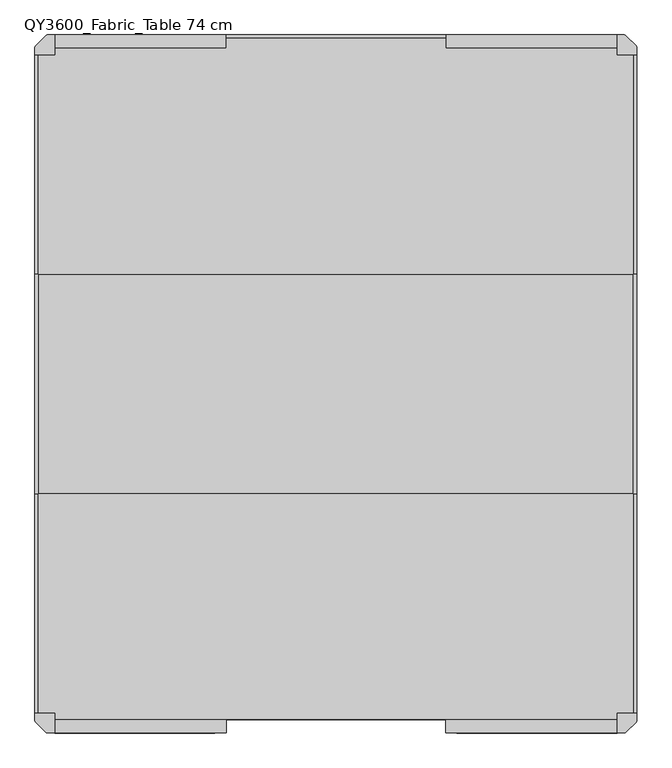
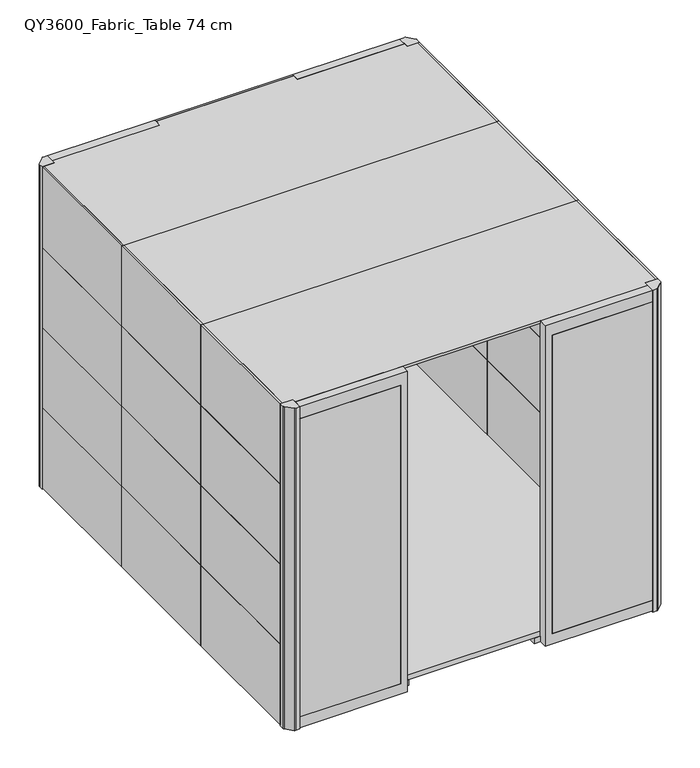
"""IFC4 building model written with IfcOpenShell, lengths in millimetres: furniture geometry, Qyos_600 : QY3600_Fabric_Table 74 cm."""

from ifc_helpers import new_model, si_unit, point, frame, frame_2d, origin, origin_with_axes, place, context, project, spatial, polyline, circle_curve, trimmed, segment, composite_curve, outline, extrude, source, transform, mapped, element, save
from ifc_brep_helpers import plane_surface, cylinder_surface, advanced_brep


def qy3600_fabric_table_74_cm_c5741240(model_context):
    return source(origin(), model_context, "Body", "SolidModel", [
        advanced_brep(
        [(1048.8585356, 1272.0, 0.0), (1095.1414644, 1272.0, 0.0), (1072.0, 1272.0, 0.0), (1048.8585356, 1272.0, 7.0), (1095.1414644, 1272.0, 7.0), (1062.3615446, 1272.0, 7.0), (1081.6384554, 1272.0, 7.0), (1062.3615446, 1272.0, 17.0), (1081.6384554, 1272.0, 17.0), (1072.0, 1272.0, 17.0)],
        [
            (0, 1, circle_curve(frame((1072.0, 1272.0, 0.0), z_axis=(0.0, 0.0, -1.0), x_axis=(1.0, 0.0, 0.0)), 23.1414644)),
            (1, 2),
            (2, 0),
            (1, 0, circle_curve(frame((1072.0, 1272.0, 0.0), z_axis=(0.0, 0.0, -1.0), x_axis=(1.0, 0.0, 0.0)), 23.1414644)),
            (3, 4, circle_curve(frame((1072.0, 1272.0, 7.0), z_axis=(0.0, 0.0, -1.0), x_axis=(1.0, 0.0, 0.0)), 23.1414644)),
            (4, 1),
            (0, 3),
            (4, 3, circle_curve(frame((1072.0, 1272.0, 7.0), z_axis=(0.0, 0.0, -1.0), x_axis=(1.0, 0.0, 0.0)), 23.1414644)),
            (5, 6, circle_curve(frame((1072.0, 1272.0, 7.0), z_axis=(0.0, 0.0, -1.0), x_axis=(1.0, 0.0, 0.0)), 9.6384554)),
            (6, 4),
            (3, 5),
            (6, 5, circle_curve(frame((1072.0, 1272.0, 7.0), z_axis=(0.0, 0.0, -1.0), x_axis=(1.0, 0.0, 0.0)), 9.6384554)),
            (7, 8, circle_curve(frame((1072.0, 1272.0, 17.0), z_axis=(0.0, 0.0, -1.0), x_axis=(1.0, 0.0, 0.0)), 9.6384554)),
            (8, 6),
            (5, 7),
            (8, 7, circle_curve(frame((1072.0, 1272.0, 17.0), z_axis=(0.0, 0.0, -1.0), x_axis=(1.0, 0.0, 0.0)), 9.6384554)),
            (9, 8),
            (7, 9),
        ],
        [
            plane_surface(frame((1072.0, 1272.0, 0.0), z_axis=(0.0, 0.0, -1.0), x_axis=(1.0, 0.0, 0.0))),
            cylinder_surface(frame((1072.0, 1272.0, 1997.4144888), z_axis=(0.0, 0.0, 1.0), x_axis=(1.0, 0.0, 0.0)), 23.1414644),
            plane_surface(frame((1072.0, 1272.0, 7.0), z_axis=(0.0, 0.0, 1.0), x_axis=(1.0, 0.0, 0.0))),
            cylinder_surface(frame((1072.0, 1272.0, 1997.4144888), z_axis=(0.0, 0.0, 1.0), x_axis=(1.0, 0.0, 0.0)), 9.6384554),
            plane_surface(frame((1072.0, 1272.0, 17.0), z_axis=(0.0, 0.0, 1.0), x_axis=(1.0, 0.0, 0.0))),
        ],
        [
            (0, [[1, 2, 3]]),
            (0, [[4, -3, -2]]),
            (1, [[5, 6, -1, 7]]),
            (1, [[8, -7, -4, -6]]),
            (2, [[9, 10, -5, 11]]),
            (2, [[12, -11, -8, -10]]),
            (3, [[13, 14, -9, 15]]),
            (3, [[16, -15, -12, -14]]),
            (4, [[17, -13, 18]]),
            (4, [[-18, -16, -17]]),
        ],
    ),
        extrude(outline(composite_curve([segment(trimmed(circle_curve(frame_2d((1072.0, 1272.0)), 23.1414644), [point((1048.8585356, 1272.0))], [point((1095.1414644, 1272.0))], False, "CARTESIAN"), True, "CONTINUOUS"), segment(trimmed(circle_curve(frame_2d((1072.0, 1272.0)), 23.1414644), [point((1095.1414644, 1272.0))], [point((1048.8585356, 1272.0))], False, "CARTESIAN"), True, "CONTINUOUS")], self_intersect=False)), origin_with_axes(), (0.0, 0.0, 1.0), 7.0),
        extrude(outline(composite_curve([segment(polyline([(-1140.0, 1335.0), (-1220.0, 1335.0), (-1220.0, 1362.5536246)]), True, "CONTINUOUS"), segment(trimmed(circle_curve(frame_2d((-1208.0024364, 1362.3118252)), 12.0), [point((-1220.0, 1362.5536246))], [point((-1216.7960176, 1370.4771745))], False, "CARTESIAN"), True, "CONTINUOUS"), segment(trimmed(circle_curve(frame_2d((-638.4303831, 833.431197)), 789.2560985), [point((-1216.7960176, 1370.4771745))], [point((-1175.4763607, 1411.7968315))], False, "CARTESIAN"), True, "CONTINUOUS"), segment(trimmed(circle_curve(frame_2d((-1167.3110114, 1403.0032502)), 12.0), [point((-1175.4763607, 1411.7968315))], [point((-1167.5902872, 1415.0))], False, "CARTESIAN"), True, "CONTINUOUS"), segment(polyline([(-1167.5902872, 1415.0), (-1140.0, 1415.0), (-1140.0, 1335.0)]), True, "CONTINUOUS")], self_intersect=False)), origin_with_axes(), (0.0, 0.0, 1.0), 2202.1),
        extrude(outline(composite_curve([segment(polyline([(1140.0, 1335.0), (1140.0, 1415.0), (1167.5536246, 1415.0)]), True, "CONTINUOUS"), segment(trimmed(circle_curve(frame_2d((1167.3118252, 1403.0024364)), 12.0), [point((1167.5536246, 1415.0))], [point((1175.4771745, 1411.7960176))], False, "CARTESIAN"), True, "CONTINUOUS"), segment(trimmed(circle_curve(frame_2d((638.431197, 833.4303831)), 789.2560985), [point((1175.4771745, 1411.7960176))], [point((1216.7968315, 1370.4763607))], False, "CARTESIAN"), True, "CONTINUOUS"), segment(trimmed(circle_curve(frame_2d((1208.0032502, 1362.3110114)), 12.0), [point((1216.7968315, 1370.4763607))], [point((1220.0, 1362.5902872))], False, "CARTESIAN"), True, "CONTINUOUS"), segment(polyline([(1220.0, 1362.5902872), (1220.0, 1335.0), (1140.0, 1335.0)]), True, "CONTINUOUS")], self_intersect=False)), origin_with_axes(), (0.0, 0.0, 1.0), 2202.1),
        extrude(outline(composite_curve([segment(polyline([(1140.0, -1335.0), (1220.0, -1335.0), (1220.0, -1362.5536246)]), True, "CONTINUOUS"), segment(trimmed(circle_curve(frame_2d((1208.0024364, -1362.3118252)), 12.0), [point((1220.0, -1362.5536246))], [point((1216.7960176, -1370.4771745))], False, "CARTESIAN"), True, "CONTINUOUS"), segment(trimmed(circle_curve(frame_2d((638.4303831, -833.431197)), 789.2560985), [point((1216.7960176, -1370.4771745))], [point((1175.4763607, -1411.7968315))], False, "CARTESIAN"), True, "CONTINUOUS"), segment(trimmed(circle_curve(frame_2d((1167.3110114, -1403.0032502)), 12.0), [point((1175.4763607, -1411.7968315))], [point((1167.5902872, -1415.0))], False, "CARTESIAN"), True, "CONTINUOUS"), segment(polyline([(1167.5902872, -1415.0), (1140.0, -1415.0), (1140.0, -1335.0)]), True, "CONTINUOUS")], self_intersect=False)), origin_with_axes(), (0.0, 0.0, 1.0), 2202.1),
        extrude(outline(composite_curve([segment(polyline([(-1140.0, -1335.0), (-1140.0, -1415.0), (-1167.5536246, -1415.0)]), True, "CONTINUOUS"), segment(trimmed(circle_curve(frame_2d((-1167.3118252, -1403.0024364)), 12.0), [point((-1167.5536246, -1415.0))], [point((-1175.4771745, -1411.7960176))], False, "CARTESIAN"), True, "CONTINUOUS"), segment(trimmed(circle_curve(frame_2d((-638.431197, -833.4303831)), 789.2560985), [point((-1175.4771745, -1411.7960176))], [point((-1216.7968315, -1370.4763607))], False, "CARTESIAN"), True, "CONTINUOUS"), segment(trimmed(circle_curve(frame_2d((-1208.0032502, -1362.3110114)), 12.0), [point((-1216.7968315, -1370.4763607))], [point((-1220.0, -1362.5902872))], False, "CARTESIAN"), True, "CONTINUOUS"), segment(polyline([(-1220.0, -1362.5902872), (-1220.0, -1335.0), (-1140.0, -1335.0)]), True, "CONTINUOUS")], self_intersect=False)), origin_with_axes(), (0.0, 0.0, 1.0), 2202.1),
        extrude(outline(polyline([(-445.0, 1360.0), (-445.0, 1401.0), (445.0, 1401.0), (445.0, 1360.0), (1140.0, 1360.0), (1140.0, 1335.0), (1206.0, 1335.0), (1206.0, 445.0), (-1206.0, 445.0), (-1206.0, 1335.0), (-1140.0, 1335.0), (-1140.0, 1360.0), (-445.0, 1360.0)])), frame((0.0, 0.0, 2186.1), z_axis=(0.0, 0.0, 1.0), x_axis=(1.0, 0.0, 0.0)), (0.0, 0.0, 1.0), 16.0),
        extrude(outline(polyline([(1206.0, -445.0), (1206.0, -1335.0), (1140.0, -1335.0), (1140.0, -1359.9956819), (-1140.0, -1359.9956819), (-1140.0, -1335.0), (-1206.0, -1335.0), (-1206.0, -445.0), (1206.0, -445.0)])), frame((0.0, 0.0, 2186.1), z_axis=(0.0, 0.0, 1.0), x_axis=(1.0, 0.0, 0.0)), (0.0, 0.0, 1.0), 16.0),
        extrude(outline(polyline([(1165.0, -1335.0), (1146.0, -1335.0), (1146.0, -445.0), (1165.0, -445.0), (1165.0, -1335.0)])), frame((0.0, 0.0, 77.0), z_axis=(0.0, 0.0, 1.0), x_axis=(1.0, 0.0, 0.0)), (0.0, 0.0, 1.0), 516.9823403),
        extrude(outline(polyline([(-1165.0, -1335.0), (-1165.0, -445.0), (-1146.0, -445.0), (-1146.0, -1335.0), (-1165.0, -1335.0)])), frame((0.0, 0.0, 77.0), z_axis=(0.0, 0.0, 1.0), x_axis=(1.0, 0.0, 0.0)), (0.0, 0.0, 1.0), 516.9823403),
        extrude(outline(polyline([(1165.0, -1335.0), (1146.0, -1335.0), (1146.0, -445.0), (1165.0, -445.0), (1165.0, -1335.0)])), frame((0.0, 0.0, 593.9823403), z_axis=(0.0, 0.0, 1.0), x_axis=(1.0, 0.0, 0.0)), (0.0, 0.0, 1.0), 512.0292884),
        extrude(outline(polyline([(-1165.0, -1335.0), (-1165.0, -445.0), (-1146.0, -445.0), (-1146.0, -1335.0), (-1165.0, -1335.0)])), frame((0.0, 0.0, 593.9823403), z_axis=(0.0, 0.0, 1.0), x_axis=(1.0, 0.0, 0.0)), (0.0, 0.0, 1.0), 512.0292884),
        extrude(outline(polyline([(1165.0, -1335.0), (1146.0, -1335.0), (1146.0, -445.0), (1165.0, -445.0), (1165.0, -1335.0)])), frame((0.0, 0.0, 1106.0116287), z_axis=(0.0, 0.0, 1.0), x_axis=(1.0, 0.0, 0.0)), (0.0, 0.0, 1.0), 511.9707116),
        extrude(outline(polyline([(-1165.0, -1335.0), (-1165.0, -445.0), (-1146.0, -445.0), (-1146.0, -1335.0), (-1165.0, -1335.0)])), frame((0.0, 0.0, 1106.0116287), z_axis=(0.0, 0.0, 1.0), x_axis=(1.0, 0.0, 0.0)), (0.0, 0.0, 1.0), 511.9707116),
        extrude(outline(polyline([(1165.0, -1335.0), (1146.0, -1335.0), (1146.0, -445.0), (1165.0, -445.0), (1165.0, -1335.0)])), frame((0.0, 0.0, 1617.9823403), z_axis=(0.0, 0.0, 1.0), x_axis=(1.0, 0.0, 0.0)), (0.0, 0.0, 1.0), 504.1176597),
        extrude(outline(polyline([(-1165.0, -1335.0), (-1165.0, -445.0), (-1146.0, -445.0), (-1146.0, -1335.0), (-1165.0, -1335.0)])), frame((0.0, 0.0, 1617.9823403), z_axis=(0.0, 0.0, 1.0), x_axis=(1.0, 0.0, 0.0)), (0.0, 0.0, 1.0), 504.1176597),
        extrude(outline(polyline([(1165.0, -445.0), (1146.0, -445.0), (1146.0, 445.0), (1165.0, 445.0), (1165.0, -445.0)])), frame((0.0, 0.0, 1617.9823403), z_axis=(0.0, 0.0, 1.0), x_axis=(1.0, 0.0, 0.0)), (0.0, 0.0, 1.0), 504.1176597),
        extrude(outline(polyline([(-1165.0, -445.0), (-1165.0, 445.0), (-1146.0, 445.0), (-1146.0, -445.0), (-1165.0, -445.0)])), frame((0.0, 0.0, 1617.9823403), z_axis=(0.0, 0.0, 1.0), x_axis=(1.0, 0.0, 0.0)), (0.0, 0.0, 1.0), 504.1176597),
        extrude(outline(polyline([(1165.0, -445.0), (1146.0, -445.0), (1146.0, 445.0), (1165.0, 445.0), (1165.0, -445.0)])), frame((0.0, 0.0, 1106.0116287), z_axis=(0.0, 0.0, 1.0), x_axis=(1.0, 0.0, 0.0)), (0.0, 0.0, 1.0), 511.9707116),
        extrude(outline(polyline([(-1165.0, -445.0), (-1165.0, 445.0), (-1146.0, 445.0), (-1146.0, -445.0), (-1165.0, -445.0)])), frame((0.0, 0.0, 1106.0116287), z_axis=(0.0, 0.0, 1.0), x_axis=(1.0, 0.0, 0.0)), (0.0, 0.0, 1.0), 511.9707116),
        extrude(outline(polyline([(1165.0, -445.0), (1146.0, -445.0), (1146.0, 445.0), (1165.0, 445.0), (1165.0, -445.0)])), frame((0.0, 0.0, 593.9823403), z_axis=(0.0, 0.0, 1.0), x_axis=(1.0, 0.0, 0.0)), (0.0, 0.0, 1.0), 512.0292884),
        extrude(outline(polyline([(-1165.0, -445.0), (-1165.0, 445.0), (-1146.0, 445.0), (-1146.0, -445.0), (-1165.0, -445.0)])), frame((0.0, 0.0, 593.9823403), z_axis=(0.0, 0.0, 1.0), x_axis=(1.0, 0.0, 0.0)), (0.0, 0.0, 1.0), 512.0292884),
        extrude(outline(polyline([(1165.0, 445.0), (1146.0, 445.0), (1146.0, 1335.0), (1165.0, 1335.0), (1165.0, 445.0)])), frame((0.0, 0.0, 77.0), z_axis=(0.0, 0.0, 1.0), x_axis=(1.0, 0.0, 0.0)), (0.0, 0.0, 1.0), 516.9823403),
        extrude(outline(polyline([(-1165.0, 445.0), (-1165.0, 1335.0), (-1146.0, 1335.0), (-1146.0, 445.0), (-1165.0, 445.0)])), frame((0.0, 0.0, 77.0), z_axis=(0.0, 0.0, 1.0), x_axis=(1.0, 0.0, 0.0)), (0.0, 0.0, 1.0), 516.9823403),
        extrude(outline(polyline([(-445.0, 1360.0), (-445.0, 1379.0), (445.0557256, 1379.0), (445.0557256, 1360.0), (-445.0, 1360.0)])), frame((0.0, 0.0, 77.0), z_axis=(0.0, 0.0, 1.0), x_axis=(1.0, 0.0, 0.0)), (0.0, 0.0, 1.0), 516.9823403),
        extrude(outline(polyline([(-1220.0, -445.0), (-1220.0, 445.0), (-1206.0, 445.0), (-1206.0, -445.0), (-1220.0, -445.0)])), frame((0.0, 0.0, 10.0), z_axis=(0.0, 0.0, 1.0), x_axis=(1.0, 0.0, 0.0)), (0.0, 0.0, 1.0), 548.0116287),
        extrude(outline(polyline([(1220.0, -445.0), (1206.0, -445.0), (1206.0, 445.0), (1220.0, 445.0), (1220.0, -445.0)])), frame((0.0, 0.0, 10.0), z_axis=(0.0, 0.0, 1.0), x_axis=(1.0, 0.0, 0.0)), (0.0, 0.0, 1.0), 548.0116287),
        extrude(outline(polyline([(-1220.0, -445.0), (-1220.0, 445.0), (-1206.0, 445.0), (-1206.0, -445.0), (-1220.0, -445.0)])), frame((0.0, 0.0, 558.0116287), z_axis=(0.0, 0.0, 1.0), x_axis=(1.0, 0.0, 0.0)), (0.0, 0.0, 1.0), 548.0),
        extrude(outline(polyline([(1220.0, -445.0), (1206.0, -445.0), (1206.0, 445.0), (1220.0, 445.0), (1220.0, -445.0)])), frame((0.0, 0.0, 558.0116287), z_axis=(0.0, 0.0, 1.0), x_axis=(1.0, 0.0, 0.0)), (0.0, 0.0, 1.0), 548.0),
        extrude(outline(polyline([(-1220.0, -445.0), (-1220.0, 445.0), (-1206.0, 445.0), (-1206.0, -445.0), (-1220.0, -445.0)])), frame((0.0, 0.0, 1106.0116287), z_axis=(0.0, 0.0, 1.0), x_axis=(1.0, 0.0, 0.0)), (0.0, 0.0, 1.0), 548.0),
        extrude(outline(polyline([(1220.0, -445.0), (1206.0, -445.0), (1206.0, 445.0), (1220.0, 445.0), (1220.0, -445.0)])), frame((0.0, 0.0, 1106.0116287), z_axis=(0.0, 0.0, 1.0), x_axis=(1.0, 0.0, 0.0)), (0.0, 0.0, 1.0), 548.0),
        extrude(outline(polyline([(-1220.0, -445.0), (-1220.0, 445.0), (-1206.0, 445.0), (-1206.0, -445.0), (-1220.0, -445.0)])), frame((0.0, 0.0, 1654.0116287), z_axis=(0.0, 0.0, 1.0), x_axis=(1.0, 0.0, 0.0)), (0.0, 0.0, 1.0), 548.0883713),
        extrude(outline(polyline([(1220.0, -445.0), (1206.0, -445.0), (1206.0, 445.0), (1220.0, 445.0), (1220.0, -445.0)])), frame((0.0, 0.0, 1654.0116287), z_axis=(0.0, 0.0, 1.0), x_axis=(1.0, 0.0, 0.0)), (0.0, 0.0, 1.0), 548.0883713),
        extrude(outline(polyline([(-1220.0, -1335.0), (-1220.0, -445.0), (-1206.0, -445.0), (-1206.0, -1335.0), (-1220.0, -1335.0)])), frame((0.0, 0.0, 10.0), z_axis=(0.0, 0.0, 1.0), x_axis=(1.0, 0.0, 0.0)), (0.0, 0.0, 1.0), 548.0116287),
        extrude(outline(polyline([(1220.0, -1335.0), (1206.0, -1335.0), (1206.0, -445.0), (1220.0, -445.0), (1220.0, -1335.0)])), frame((0.0, 0.0, 10.0), z_axis=(0.0, 0.0, 1.0), x_axis=(1.0, 0.0, 0.0)), (0.0, 0.0, 1.0), 548.0116287),
        extrude(outline(polyline([(-1220.0, -1335.0), (-1220.0, -445.0), (-1206.0, -445.0), (-1206.0, -1335.0), (-1220.0, -1335.0)])), frame((0.0, 0.0, 558.0116287), z_axis=(0.0, 0.0, 1.0), x_axis=(1.0, 0.0, 0.0)), (0.0, 0.0, 1.0), 548.0),
        extrude(outline(polyline([(1220.0, -1335.0), (1206.0, -1335.0), (1206.0, -445.0), (1220.0, -445.0), (1220.0, -1335.0)])), frame((0.0, 0.0, 558.0116287), z_axis=(0.0, 0.0, 1.0), x_axis=(1.0, 0.0, 0.0)), (0.0, 0.0, 1.0), 548.0),
        extrude(outline(polyline([(-1220.0, -1335.0), (-1220.0, -445.0), (-1206.0, -445.0), (-1206.0, -1335.0), (-1220.0, -1335.0)])), frame((0.0, 0.0, 1106.0116287), z_axis=(0.0, 0.0, 1.0), x_axis=(1.0, 0.0, 0.0)), (0.0, 0.0, 1.0), 548.0),
        extrude(outline(polyline([(1220.0, -1335.0), (1206.0, -1335.0), (1206.0, -445.0), (1220.0, -445.0), (1220.0, -1335.0)])), frame((0.0, 0.0, 1106.0116287), z_axis=(0.0, 0.0, 1.0), x_axis=(1.0, 0.0, 0.0)), (0.0, 0.0, 1.0), 548.0),
        extrude(outline(polyline([(-1220.0, -1335.0), (-1220.0, -445.0), (-1206.0, -445.0), (-1206.0, -1335.0), (-1220.0, -1335.0)])), frame((0.0, 0.0, 1654.0116287), z_axis=(0.0, 0.0, 1.0), x_axis=(1.0, 0.0, 0.0)), (0.0, 0.0, 1.0), 548.0883713),
        extrude(outline(polyline([(1220.0, -1335.0), (1206.0, -1335.0), (1206.0, -445.0), (1220.0, -445.0), (1220.0, -1335.0)])), frame((0.0, 0.0, 1654.0116287), z_axis=(0.0, 0.0, 1.0), x_axis=(1.0, 0.0, 0.0)), (0.0, 0.0, 1.0), 548.0883713),
        extrude(outline(polyline([(-1220.0, 445.0), (-1220.0, 1335.0), (-1206.0, 1335.0), (-1206.0, 445.0), (-1220.0, 445.0)])), frame((0.0, 0.0, 1654.0116287), z_axis=(0.0, 0.0, 1.0), x_axis=(1.0, 0.0, 0.0)), (0.0, 0.0, 1.0), 548.0883713),
        extrude(outline(polyline([(1220.0, 445.0), (1206.0, 445.0), (1206.0, 1335.0), (1220.0, 1335.0), (1220.0, 445.0)])), frame((0.0, 0.0, 1654.0116287), z_axis=(0.0, 0.0, 1.0), x_axis=(1.0, 0.0, 0.0)), (0.0, 0.0, 1.0), 548.0883713),
        extrude(outline(polyline([(445.0557256, 1415.0), (445.0557256, 1401.0), (-445.0, 1401.0), (-445.0, 1415.0), (445.0557256, 1415.0)])), frame((0.0, 0.0, 1654.0116287), z_axis=(0.0, 0.0, 1.0), x_axis=(1.0, 0.0, 0.0)), (0.0, 0.0, 1.0), 548.0883713),
        extrude(outline(polyline([(-1140.0, 1415.0), (-490.0089845, 1415.0), (-490.0089845, 1410.0), (-1140.0, 1410.0), (-1140.0, 1415.0)])), frame((0.0, 0.0, 82.0), z_axis=(0.0, 0.0, 1.0), x_axis=(1.0, 0.0, 0.0)), (0.0, 0.0, 1.0), 2040.1),
        extrude(outline(polyline([(490.0089845, 1415.0), (1140.0, 1415.0), (1140.0, 1410.0), (490.0089845, 1410.0), (490.0089845, 1415.0)])), frame((0.0, 0.0, 82.0), z_axis=(0.0, 0.0, 1.0), x_axis=(1.0, 0.0, 0.0)), (0.0, 0.0, 1.0), 2040.1),
        extrude(outline(polyline([(2122.1, -490.0089845), (82.0, -490.0089845), (82.0, -1140.0), (10.0, -1140.0), (10.0, -445.0), (2202.1, -445.0), (2202.1, -1140.0), (2122.1, -1140.0), (2122.1, -490.0089845)])), frame((0.0, 1360.0, 0.0), z_axis=(0.0, 1.0, 0.0), x_axis=(0.0, 0.0, 1.0)), (0.0, 0.0, 1.0), 55.0),
        extrude(outline(polyline([(2122.1, 490.0089845), (2122.1, 1140.0), (2202.1, 1140.0), (2202.1, 445.0), (10.0, 445.0), (10.0, 1140.0), (82.0, 1140.0), (82.0, 490.0089845), (2122.1, 490.0089845)])), frame((0.0, 1360.0, 0.0), z_axis=(0.0, 1.0, 0.0), x_axis=(0.0, 0.0, 1.0)), (0.0, 0.0, 1.0), 55.0),
        extrude(outline(polyline([(1206.0, 445.0), (1206.0, -445.0), (-1206.0, -445.0), (-1206.0, 445.0), (1206.0, 445.0)])), frame((0.0, 0.0, 2186.1), z_axis=(0.0, 0.0, 1.0), x_axis=(1.0, 0.0, 0.0)), (0.0, 0.0, 1.0), 16.0),
        extrude(outline(polyline([(-490.0089845, -1415.0), (-1140.0, -1415.0), (-1140.0, -1410.0), (-490.0089845, -1410.0), (-490.0089845, -1415.0)])), frame((0.0, 0.0, 82.0), z_axis=(0.0, 0.0, 1.0), x_axis=(1.0, 0.0, 0.0)), (0.0, 0.0, 1.0), 2040.1),
        extrude(outline(polyline([(1140.0, -1415.0), (490.0089845, -1415.0), (490.0089845, -1410.0), (1140.0, -1410.0), (1140.0, -1415.0)])), frame((0.0, 0.0, 82.0), z_axis=(0.0, 0.0, 1.0), x_axis=(1.0, 0.0, 0.0)), (0.0, 0.0, 1.0), 2040.1),
        extrude(outline(polyline([(-1052.0, -1359.9956819), (-1092.0, -1359.9956819), (-1092.0, 1360.0), (-1052.0, 1360.0), (-1052.0, -1359.9956819)])), frame((0.0, 0.0, 10.0), z_axis=(0.0, 0.0, 1.0), x_axis=(1.0, 0.0, 0.0)), (0.0, 0.0, 1.0), 37.0),
        extrude(outline(polyline([(-405.0, -1359.9956819), (-445.0, -1359.9956819), (-445.0, 1360.0), (-405.0, 1360.0), (-405.0, -1359.9956819)])), frame((0.0, 0.0, 10.0), z_axis=(0.0, 0.0, 1.0), x_axis=(1.0, 0.0, 0.0)), (0.0, 0.0, 1.0), 37.0),
        extrude(outline(polyline([(1092.0, -1359.9956819), (1052.0, -1359.9956819), (1052.0, 1360.0), (1092.0, 1360.0), (1092.0, -1359.9956819)])), frame((0.0, 0.0, 10.0), z_axis=(0.0, 0.0, 1.0), x_axis=(1.0, 0.0, 0.0)), (0.0, 0.0, 1.0), 37.0),
        extrude(outline(polyline([(405.0, 1360.0), (450.2080274, 1360.0), (450.2080274, -1359.9956819), (405.0, -1359.9956819), (405.0, 1360.0)])), frame((0.0, 0.0, 10.0), z_axis=(0.0, 0.0, 1.0), x_axis=(1.0, 0.0, 0.0)), (0.0, 0.0, 1.0), 37.0),
        extrude(outline(polyline([(2122.1, -490.0089845), (82.0, -490.0089845), (82.0, -1140.0), (10.0, -1140.0), (10.0, -445.0), (2202.1, -445.0), (2202.1, -1140.0), (2122.1, -1140.0), (2122.1, -490.0089845)])), frame((0.0, -1415.0, 0.0), z_axis=(0.0, 1.0, 0.0), x_axis=(0.0, 0.0, 1.0)), (0.0, 0.0, 1.0), 55.0043181),
        extrude(outline(polyline([(2122.1, 490.0089845), (2122.1, 1140.0), (2202.1, 1140.0), (2202.1, 445.0), (10.0, 445.0), (10.0, 1140.0), (82.0, 1140.0), (82.0, 490.0089845), (2122.1, 490.0089845)])), frame((0.0, -1415.0, 0.0), z_axis=(0.0, 1.0, 0.0), x_axis=(0.0, 0.0, 1.0)), (0.0, 0.0, 1.0), 55.0043181),
        extrude(outline(polyline([(-1146.0, 1335.0), (-1140.0, 1335.0), (-1140.0, 1360.0), (1140.0, 1360.0), (1140.0, 1335.0), (1146.0, 1335.0), (1146.0, -1335.0), (1140.0, -1335.0), (1140.0, -1359.9956819), (-1140.0, -1359.9956819), (-1140.0, -1335.0), (-1146.0, -1335.0), (-1146.0, 1335.0)])), frame((0.0, 0.0, 47.0), z_axis=(0.0, 0.0, 1.0), x_axis=(1.0, 0.0, 0.0)), (0.0, 0.0, 1.0), 35.0),
        extrude(outline(polyline([(1165.0, 445.0), (1146.0, 445.0), (1146.0, 1335.0024364), (1165.0, 1335.0024364), (1165.0, 445.0)])), frame((0.0, 0.0, 1617.9823403), z_axis=(0.0, 0.0, 1.0), x_axis=(1.0, 0.0, 0.0)), (0.0, 0.0, 1.0), 504.1176597),
        extrude(outline(polyline([(-1165.0, 445.0), (-1165.0, 1335.0), (-1146.0, 1335.0), (-1146.0, 445.0), (-1165.0, 445.0)])), frame((0.0, 0.0, 1617.9823403), z_axis=(0.0, 0.0, 1.0), x_axis=(1.0, 0.0, 0.0)), (0.0, 0.0, 1.0), 504.1176597),
        extrude(outline(polyline([(-445.0, 1360.0), (-445.0, 1379.0), (445.0557256, 1379.0), (445.0557256, 1360.0), (-445.0, 1360.0)])), frame((0.0, 0.0, 1617.9823403), z_axis=(0.0, 0.0, 1.0), x_axis=(1.0, 0.0, 0.0)), (0.0, 0.0, 1.0), 504.1176597),
        extrude(outline(polyline([(1165.0, 445.0), (1146.0, 445.0), (1146.0, 1335.0), (1165.0, 1335.0), (1165.0, 445.0)])), frame((0.0, 0.0, 1106.0116287), z_axis=(0.0, 0.0, 1.0), x_axis=(1.0, 0.0, 0.0)), (0.0, 0.0, 1.0), 511.9707116),
        extrude(outline(polyline([(-1165.0, 445.0), (-1165.0, 1335.0), (-1146.0, 1335.0), (-1146.0, 445.0), (-1165.0, 445.0)])), frame((0.0, 0.0, 1106.0116287), z_axis=(0.0, 0.0, 1.0), x_axis=(1.0, 0.0, 0.0)), (0.0, 0.0, 1.0), 511.9707116),
        extrude(outline(polyline([(-445.0, 1360.0), (-445.0, 1379.0), (445.0557256, 1379.0), (445.0557256, 1360.0), (-445.0, 1360.0)])), frame((0.0, 0.0, 1106.0116287), z_axis=(0.0, 0.0, 1.0), x_axis=(1.0, 0.0, 0.0)), (0.0, 0.0, 1.0), 511.9707116),
        extrude(outline(polyline([(1165.0, 445.0), (1146.0, 445.0), (1146.0, 1335.0), (1165.0, 1335.0), (1165.0, 445.0)])), frame((0.0, 0.0, 593.9823403), z_axis=(0.0, 0.0, 1.0), x_axis=(1.0, 0.0, 0.0)), (0.0, 0.0, 1.0), 512.0292884),
        extrude(outline(polyline([(-1165.0, 445.0), (-1165.0, 1335.0), (-1146.0, 1335.0), (-1146.0, 445.0), (-1165.0, 445.0)])), frame((0.0, 0.0, 593.9823403), z_axis=(0.0, 0.0, 1.0), x_axis=(1.0, 0.0, 0.0)), (0.0, 0.0, 1.0), 512.0292884),
        extrude(outline(polyline([(-445.0, 1360.0), (-445.0, 1379.0), (445.0557256, 1379.0), (445.0557256, 1360.0), (-445.0, 1360.0)])), frame((0.0, 0.0, 593.9823403), z_axis=(0.0, 0.0, 1.0), x_axis=(1.0, 0.0, 0.0)), (0.0, 0.0, 1.0), 512.0292884),
        extrude(outline(polyline([(1165.0, -445.0), (1146.0, -445.0), (1146.0, 445.0), (1165.0, 445.0), (1165.0, -445.0)])), frame((0.0, 0.0, 77.0), z_axis=(0.0, 0.0, 1.0), x_axis=(1.0, 0.0, 0.0)), (0.0, 0.0, 1.0), 516.9823403),
        extrude(outline(polyline([(-1165.0, -445.0), (-1165.0, 445.0), (-1146.0, 445.0), (-1146.0, -445.0), (-1165.0, -445.0)])), frame((0.0, 0.0, 77.0), z_axis=(0.0, 0.0, 1.0), x_axis=(1.0, 0.0, 0.0)), (0.0, 0.0, 1.0), 516.9823403),
        extrude(outline(polyline([(-1220.0, 445.0), (-1220.0, 1335.0), (-1206.0, 1335.0), (-1206.0, 445.0), (-1220.0, 445.0)])), frame((0.0, 0.0, 1106.0116287), z_axis=(0.0, 0.0, 1.0), x_axis=(1.0, 0.0, 0.0)), (0.0, 0.0, 1.0), 548.0),
        extrude(outline(polyline([(1220.0, 445.0), (1206.0, 445.0), (1206.0, 1335.0), (1220.0, 1335.0), (1220.0, 445.0)])), frame((0.0, 0.0, 1106.0116287), z_axis=(0.0, 0.0, 1.0), x_axis=(1.0, 0.0, 0.0)), (0.0, 0.0, 1.0), 548.0),
        extrude(outline(polyline([(445.0557256, 1415.0), (445.0557256, 1401.0), (-445.0, 1401.0), (-445.0, 1415.0), (445.0557256, 1415.0)])), frame((0.0, 0.0, 1106.0116287), z_axis=(0.0, 0.0, 1.0), x_axis=(1.0, 0.0, 0.0)), (0.0, 0.0, 1.0), 548.0),
        extrude(outline(polyline([(-1220.0, 445.0), (-1220.0, 1335.0), (-1206.0, 1335.0), (-1206.0, 445.0), (-1220.0, 445.0)])), frame((0.0, 0.0, 558.0116287), z_axis=(0.0, 0.0, 1.0), x_axis=(1.0, 0.0, 0.0)), (0.0, 0.0, 1.0), 548.0),
        extrude(outline(polyline([(1220.0, 445.0), (1206.0, 445.0), (1206.0, 1335.0), (1220.0, 1335.0), (1220.0, 445.0)])), frame((0.0, 0.0, 558.0116287), z_axis=(0.0, 0.0, 1.0), x_axis=(1.0, 0.0, 0.0)), (0.0, 0.0, 1.0), 548.0),
        extrude(outline(polyline([(445.0557256, 1415.0), (445.0557256, 1401.0), (-445.0, 1401.0), (-445.0, 1415.0), (445.0557256, 1415.0)])), frame((0.0, 0.0, 558.0116287), z_axis=(0.0, 0.0, 1.0), x_axis=(1.0, 0.0, 0.0)), (0.0, 0.0, 1.0), 548.0),
        extrude(outline(polyline([(-1220.0, 445.0), (-1220.0, 1335.0), (-1206.0, 1335.0), (-1206.0, 445.0), (-1220.0, 445.0)])), frame((0.0, 0.0, 10.0), z_axis=(0.0, 0.0, 1.0), x_axis=(1.0, 0.0, 0.0)), (0.0, 0.0, 1.0), 548.0116287),
        extrude(outline(polyline([(1220.0, 445.0), (1206.0, 445.0), (1206.0, 1335.0), (1220.0, 1335.0), (1220.0, 445.0)])), frame((0.0, 0.0, 10.0), z_axis=(0.0, 0.0, 1.0), x_axis=(1.0, 0.0, 0.0)), (0.0, 0.0, 1.0), 548.0116287),
        extrude(outline(polyline([(445.0557256, 1415.0), (445.0557256, 1401.0), (-445.0, 1401.0), (-445.0, 1415.0), (445.0557256, 1415.0)])), frame((0.0, 0.0, 10.0), z_axis=(0.0, 0.0, 1.0), x_axis=(1.0, 0.0, 0.0)), (0.0, 0.0, 1.0), 548.0116287),
    ])


if __name__ == "__main__":
    model = new_model("IFC4")
    model_context = context("Model", 3, world=origin())
    ifc_project = project(units=[si_unit("LENGTHUNIT", "METRE", prefix="MILLI")], contexts=[model_context])
    site = spatial("IfcSite", under=ifc_project)
    building = spatial("IfcBuilding", under=site)
    placement = place(None, origin())
    qy3600_fabric_table_74_cm_shape = qy3600_fabric_table_74_cm_c5741240(model_context)
    element("IfcFurniture", 1, ObjectType="Qyos_600 : QY3600_Fabric_Table 74 cm", at=placement, inside=building, context=model_context, shape_type="MappedRepresentation", body=[
        mapped(qy3600_fabric_table_74_cm_shape, transform((0.0, 0.0, 0.0), x_axis=(1.0, 0.0, 0.0), y_axis=(0.0, 1.0, 0.0), z_axis=(0.0, 0.0, 1.0))),
    ])
    save(model, "model.ifc")
